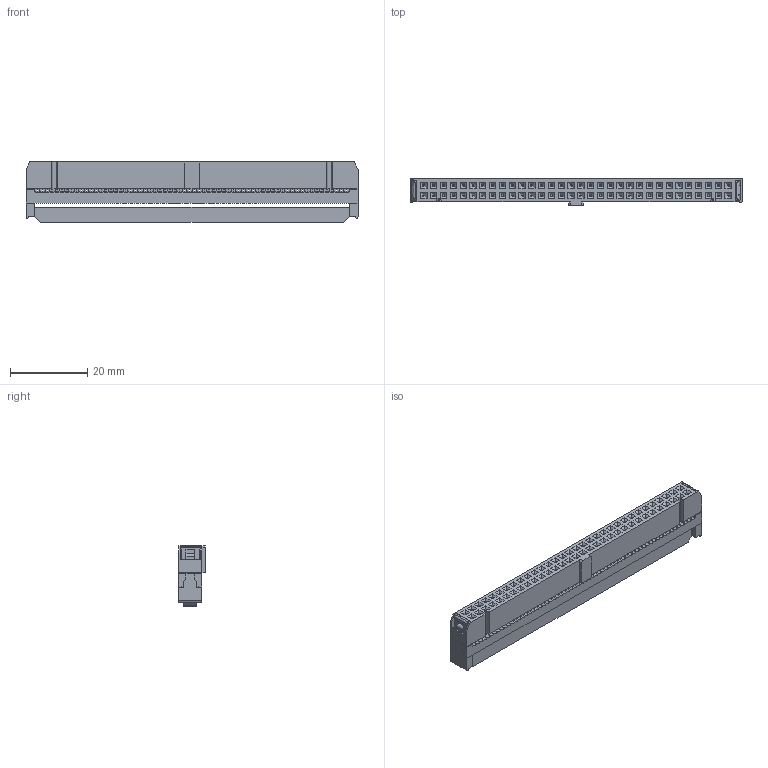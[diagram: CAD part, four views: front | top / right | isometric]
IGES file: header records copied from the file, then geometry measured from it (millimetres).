
Global section: file name: Filename.iges; native system: Open CASCADE 7.3; preprocessor: Open CASCADE IGES processor 7.3; date: 20201209.080523; units: millimetre
Bounding box: 85.96 x 6.86 x 15.7 mm (x, y, z)
Surface area: 10425 mm2 (no closed solid volume)
Topology: 0 solids, 0 shells, 3525 faces, 19424 edges, 19416 vertices
Faces by surface type: plane 2692, revolution 818, extrusion 11, bspline 4
